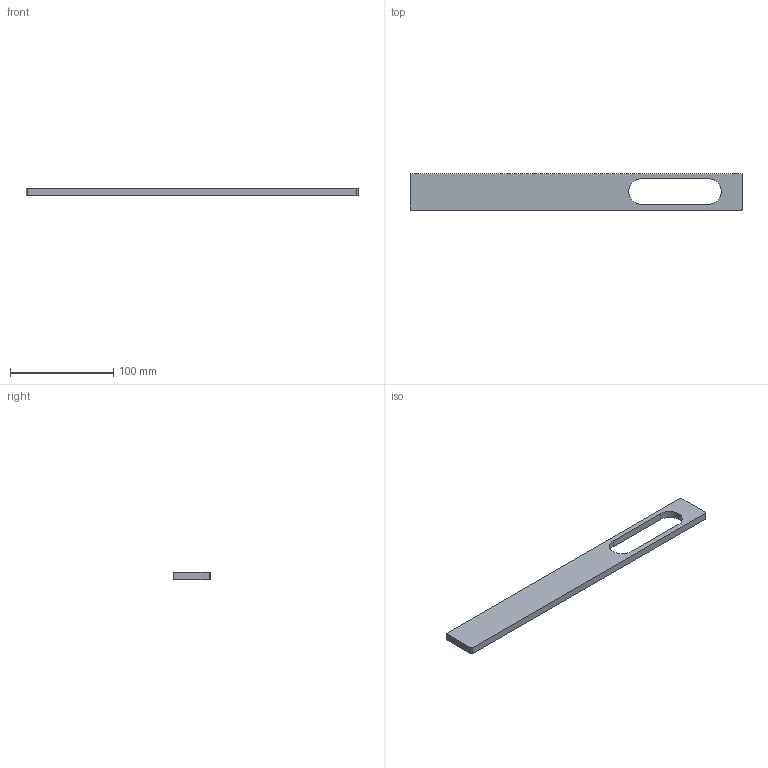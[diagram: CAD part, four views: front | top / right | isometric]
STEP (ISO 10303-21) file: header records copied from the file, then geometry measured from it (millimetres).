
FILE_DESCRIPTION( ( '' ), '1' );
FILE_NAME( 'D:/1.AUTOCAD EXPORT/Group 10/sheet_10_1/DONE/Sachin_1/115006.stp', '2013-10-29T09:45:22', ( '' ), ( '' ), ' ', ' ', ' ' );
FILE_SCHEMA( ( 'CONFIG_CONTROL_DESIGN' ) );
Length unit declared in the file: millimetre
Products named in the file (1): 1
Bounding box: 322 x 35 x 7 mm (x, y, z)
Volume: 63874.8 mm3; surface area: 24960.2 mm2
Topology: 1 solids, 1 shells, 18 faces, 42 edges, 28 vertices
Faces by surface type: plane 10, cylinder 8
Entity records: 570 total; most frequent: DIRECTION 96, CARTESIAN_POINT 89, ORIENTED_EDGE 84, EDGE_CURVE 42, AXIS2_PLACEMENT_3D 35, VERTEX_POINT 28, LINE 26, VECTOR 26
